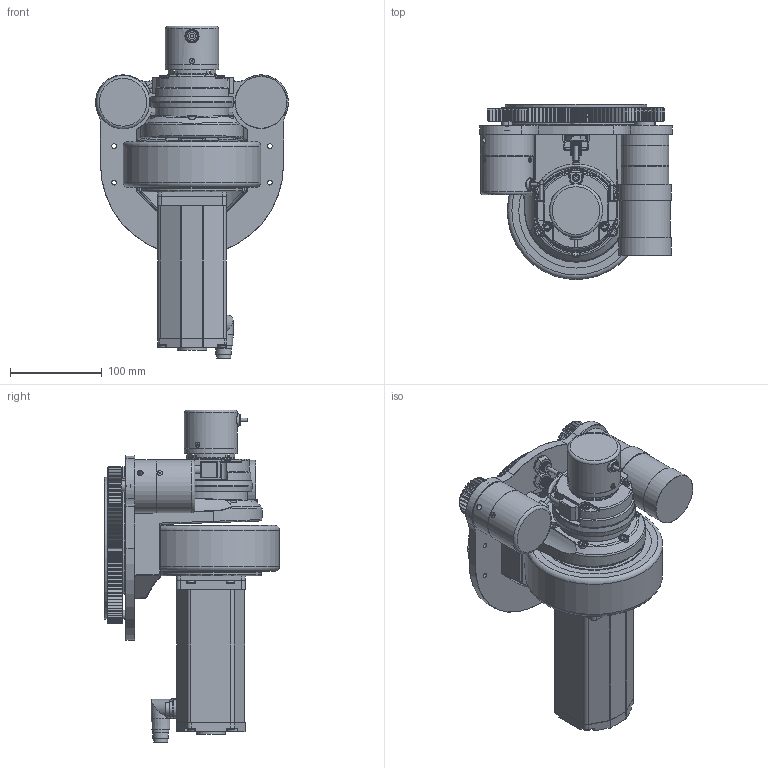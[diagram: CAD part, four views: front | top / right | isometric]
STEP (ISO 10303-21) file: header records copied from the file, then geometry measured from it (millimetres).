
FILE_DESCRIPTION (( 'STEP AP214' ), '1' );
FILE_NAME ('ZLW-190-7575-908.STEP', '2019-04-23T23:40:57', ( '' ), ( '' ), 'SwSTEP 2.0', 'SolidWorks 2016', '' );
FILE_SCHEMA (( 'AUTOMOTIVE_DESIGN' ));
Length unit declared in the file: millimetre
Products named in the file (1): ZLW-190-7575-908
Bounding box: 210.4 x 191 x 362.25 mm (x, y, z)
Surface area: 427869.4 mm2 (no closed solid volume)
Topology: 0 solids, 111 shells, 1800 faces, 5852 edges, 4121 vertices
Faces by surface type: cylinder 919, plane 430, cone 300, bspline 76, torus 65, sphere 10
Full cylindrical faces by diameter (mm): 1.5 x2, 4 x2, 4.5 x2, 4.66 x4, 4.7 x4, 5 x18, 5.1 x1, 5.2 x4, 5.54 x4, 5.61 x8, 6 x5, 7 x3, 7.53 x1, 8 x9, 8.5 x5, 9 x8, 10 x4, 11 x14, 11.7 x1, 12 x2, 13.7 x1, 14.2 x1, 15 x1, 15.6 x1, 15.7 x1, 16 x1, 17 x1, 17.8 x1, 18 x1, 20 x2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
Entity records: 97888 total; most frequent: CARTESIAN_POINT 29614, DIRECTION 10388, ORIENTED_EDGE 8709, EDGE_CURVE 5471, AXIS2_PLACEMENT_3D 4219, VERTEX_POINT 4034, CIRCLE 2494, EDGE_LOOP 2329
